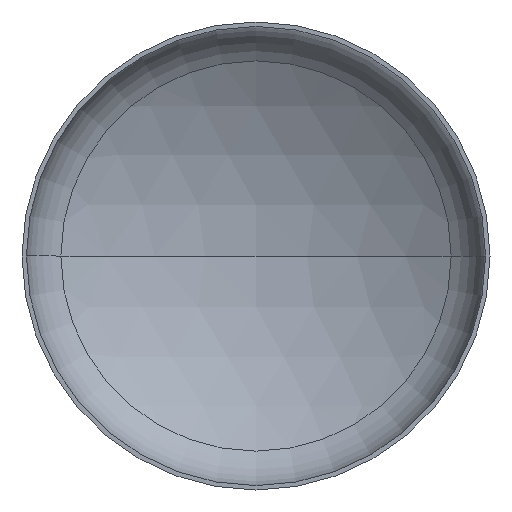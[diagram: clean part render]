
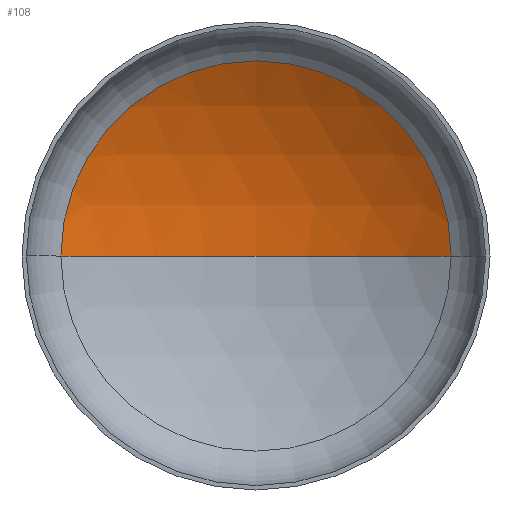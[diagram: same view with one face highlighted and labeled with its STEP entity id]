
A CAD part, front view. The second image highlights one B-rep face of the part: STEP entity #108.
In plain terms, the highlighted spherical face has radius 6400 mm.
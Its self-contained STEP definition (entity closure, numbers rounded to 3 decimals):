
#12 = VERTEX_POINT ( 'NONE', #226 ) ;
#30 = ORIENTED_EDGE ( 'NONE', *, *, #333, .F. ) ;
#31 = VERTEX_POINT ( 'NONE', #212 ) ;
#39 = CIRCLE ( 'NONE', #47, 6400. ) ;
#45 = VERTEX_POINT ( 'NONE', #258 ) ;
#47 = AXIS2_PLACEMENT_3D ( 'NONE', #382, #234, #136 ) ;
#74 = CIRCLE ( 'NONE', #125, 6400. ) ;
#90 = EDGE_LOOP ( 'NONE', ( #30, #340, #99 ) ) ;
#97 = DIRECTION ( 'NONE',  ( -1., 0., 0. ) ) ;
#99 = ORIENTED_EDGE ( 'NONE', *, *, #394, .T. ) ;
#100 = DIRECTION ( 'NONE',  ( 1., 0., 0. ) ) ;
#102 = FACE_OUTER_BOUND ( 'NONE', #90, .T. ) ;
#108 = ADVANCED_FACE ( 'NONE', ( #102 ), #188, .F. ) ;
#113 = CARTESIAN_POINT ( 'NONE',  ( 0., -4292.626, 0. ) ) ;
#116 = DIRECTION ( 'NONE',  ( 0., 0., -1. ) ) ;
#125 = AXIS2_PLACEMENT_3D ( 'NONE', #113, #116, #97 ) ;
#136 = DIRECTION ( 'NONE',  ( 1., 0., 0. ) ) ;
#172 = CIRCLE ( 'NONE', #211, 3334.932 ) ;
#188 = SPHERICAL_SURFACE ( 'NONE', #401, 6400. ) ;
#191 = CARTESIAN_POINT ( 'NONE',  ( 0., -4292.626, 0. ) ) ;
#211 = AXIS2_PLACEMENT_3D ( 'NONE', #366, #218, #100 ) ;
#212 = CARTESIAN_POINT ( 'NONE',  ( 0., 2107.374, 0. ) ) ;
#218 = DIRECTION ( 'NONE',  ( 0., -1., 0. ) ) ;
#226 = CARTESIAN_POINT ( 'NONE',  ( -3334.932, 1169.812, 0. ) ) ;
#234 = DIRECTION ( 'NONE',  ( 0., 0., 1. ) ) ;
#258 = CARTESIAN_POINT ( 'NONE',  ( 3334.932, 1169.812, 0. ) ) ;
#289 = DIRECTION ( 'NONE',  ( -1., 0., 0. ) ) ;
#304 = DIRECTION ( 'NONE',  ( 0., 0., -1. ) ) ;
#333 = EDGE_CURVE ( 'NONE', #31, #12, #39, .T. ) ;
#340 = ORIENTED_EDGE ( 'NONE', *, *, #353, .T. ) ;
#353 = EDGE_CURVE ( 'NONE', #31, #45, #74, .T. ) ;
#366 = CARTESIAN_POINT ( 'NONE',  ( 0., 1169.812, 0. ) ) ;
#382 = CARTESIAN_POINT ( 'NONE',  ( 0., -4292.626, 0. ) ) ;
#394 = EDGE_CURVE ( 'NONE', #45, #12, #172, .T. ) ;
#401 = AXIS2_PLACEMENT_3D ( 'NONE', #191, #304, #289 ) ;
